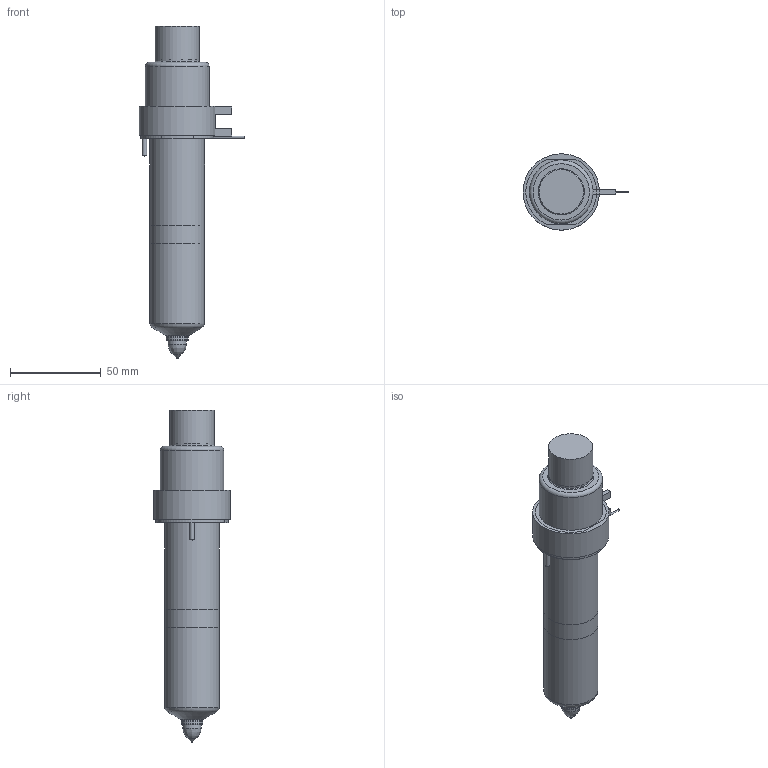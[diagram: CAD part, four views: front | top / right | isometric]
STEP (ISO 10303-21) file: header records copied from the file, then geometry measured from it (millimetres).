
FILE_DESCRIPTION(/* description */ (''),/* implementation_level */ '2;1');
FILE_NAME(/* name */ 'SXTT-SXIT16115-5_250C_b',/* time_stamp */ '2007-01-24T17:21:31+13:00',/* author */ (''),/* organization */ (''),/* preprocessor_version */ 'ST-DEVELOPER v9',/* originating_system */ 'UGS - NX 4.0',/* authorisation */ '');
FILE_SCHEMA (('CONFIG_CONTROL_DESIGN'));
Length unit declared in the file: millimetre
Products named in the file (1): SXTT-SXIT16115-5_250C_b
Bounding box: 58.25 x 42 x 182.6 mm (x, y, z)
Volume: 233158.2 mm3; surface area: 39093.6 mm2
Topology: 7 solids, 7 shells, 99 faces, 192 edges, 121 vertices
Faces by surface type: plane 45, cylinder 30, cone 12, torus 10, bspline 2
Full cylindrical faces by diameter (mm): 1 x4, 2.5 x2, 6.5 x1, 7 x1, 10 x1, 11.61 x1, 12.01 x2, 14.8 x1, 24 x1, 24.4 x1, 25.4 x1, 30 x2, 31.8 x1, 35 x1, 40 x1, 42 x1
Entity records: 2413 total; most frequent: CARTESIAN_POINT 486, DIRECTION 408, ORIENTED_EDGE 282, AXIS2_PLACEMENT_3D 179, EDGE_LOOP 156, EDGE_CURVE 141, VERTEX_POINT 114, ADVANCED_FACE 99
